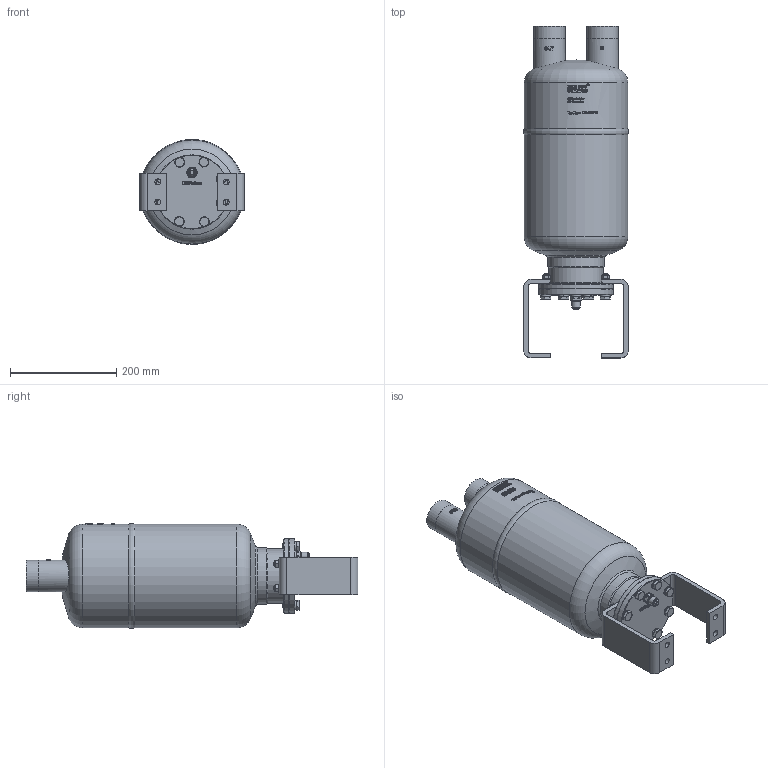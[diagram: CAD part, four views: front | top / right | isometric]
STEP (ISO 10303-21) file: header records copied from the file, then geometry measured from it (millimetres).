
FILE_DESCRIPTION(/* description */ (''),/* implementation_level */ '2;1');
FILE_NAME(/* name */ 'P:\OS\OS-54FM\OS-54FM.stp',/* time_stamp */ '2017-10-04T08:10:00+02:00',/* author */ ('neufeld'),/* organization */ (''),/* preprocessor_version */ 'ST-DEVELOPER v16.1',/* originating_system */ 'Autodesk Inventor 2016',/* authorisation */ '');
FILE_SCHEMA (('AUTOMOTIVE_DESIGN { 1 0 10303 214 3 1 1 }'));
Length unit declared in the file: millimetre
Products named in the file (2): OS-54FM; OS-54FM_1
Assembly tree (1 placements, depth 2):
  OS-54FM_1
    OS-54FM
Bounding box: 197.96 x 625.66 x 197.84 mm (x, y, z)
Volume: 11696125.3 mm3; surface area: 425727 mm2
Topology: 1 solids, 1 shells, 1640 faces, 4412 edges, 2892 vertices
Faces by surface type: plane 876, bspline 414, cylinder 217, cone 126, torus 6, sphere 1
Full cylindrical faces by diameter (mm): 7.2 x1, 8 x8, 8.5 x4, 9.188 x8, 10 x6, 10.5 x2, 11 x4, 13.5 x1, 15.4 x8, 15.7 x1, 19 x1, 54.3 x2, 59 x2, 59.5 x2, 102 x1, 106 x1, 135 x1, 140 x2, 195 x1, 195.5 x1
Entity records: 59065 total; most frequent: CARTESIAN_POINT 20900, ORIENTED_EDGE 8556, DIRECTION 6909, EDGE_CURVE 4278, VERTEX_POINT 2856, AXIS2_PLACEMENT_3D 2497, LINE 1915, VECTOR 1915
